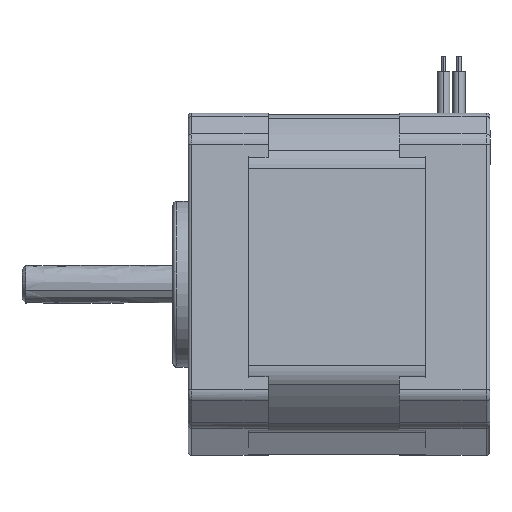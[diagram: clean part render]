
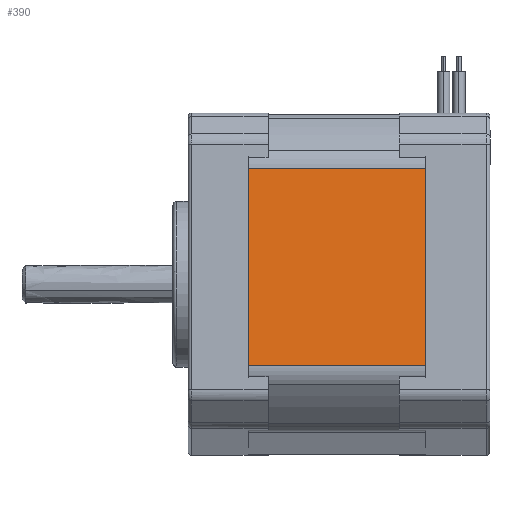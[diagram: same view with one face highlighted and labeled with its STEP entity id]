
A CAD part, top view. The second image highlights one B-rep face of the part: STEP entity #390.
In plain terms, the highlighted planar face has unit normal (0, 0.108, 0.994) as drawn and (-1, 0, 0) by its records, which use the part's own axes.
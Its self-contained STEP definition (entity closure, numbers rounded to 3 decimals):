
#390=ADVANCED_FACE('',(#1236),#12821,.T.);
#1236=FACE_OUTER_BOUND('',#2092,.T.);
#2092=EDGE_LOOP('',(#3096,#3097,#3098,#3099));
#3096=ORIENTED_EDGE('',*,*,#7278,.F.);
#3097=ORIENTED_EDGE('',*,*,#7264,.T.);
#3098=ORIENTED_EDGE('',*,*,#7279,.F.);
#3099=ORIENTED_EDGE('',*,*,#7260,.F.);
#7260=EDGE_CURVE('',#11490,#11491,#9364,.T.);
#7264=EDGE_CURVE('',#11504,#11505,#9368,.T.);
#7278=EDGE_CURVE('',#11504,#11490,#9378,.T.);
#7279=EDGE_CURVE('',#11491,#11505,#9379,.T.);
#9364=B_SPLINE_CURVE_WITH_KNOTS('',1,(#14937,#14938),.UNSPECIFIED.,.F.,
 .F.,(2,2),(0.,26.263),.UNSPECIFIED.);
#9368=B_SPLINE_CURVE_WITH_KNOTS('',1,(#14945,#14946),.UNSPECIFIED.,.F.,
 .F.,(2,2),(-26.263,0.),.UNSPECIFIED.);
#9378=B_SPLINE_CURVE_WITH_KNOTS('',1,(#14977,#14978),.UNSPECIFIED.,.F.,
 .F.,(2,2),(-23.5,0.),.UNSPECIFIED.);
#9379=B_SPLINE_CURVE_WITH_KNOTS('',1,(#14979,#14980),.UNSPECIFIED.,.F.,
 .F.,(2,2),(-23.5,0.),.UNSPECIFIED.);
#11490=VERTEX_POINT('',#14837);
#11491=VERTEX_POINT('',#14838);
#11504=VERTEX_POINT('',#14851);
#11505=VERTEX_POINT('',#14852);
#12821=PLANE('',#13560);
#13560=AXIS2_PLACEMENT_3D('',#14542,#13988,$);
#13988=DIRECTION('',(-1.,0.,0.));
#14542=CARTESIAN_POINT('',(-21.15,6.15,15.758));
#14837=CARTESIAN_POINT('',(-21.15,32.,-13.132));
#14838=CARTESIAN_POINT('',(-21.15,32.,13.132));
#14851=CARTESIAN_POINT('',(-21.15,8.5,-13.132));
#14852=CARTESIAN_POINT('',(-21.15,8.5,13.132));
#14937=CARTESIAN_POINT('',(-21.15,32.,-13.132));
#14938=CARTESIAN_POINT('',(-21.15,32.,13.132));
#14945=CARTESIAN_POINT('',(-21.15,8.5,-13.132));
#14946=CARTESIAN_POINT('',(-21.15,8.5,13.132));
#14977=CARTESIAN_POINT('',(-21.15,8.5,-13.132));
#14978=CARTESIAN_POINT('',(-21.15,32.,-13.132));
#14979=CARTESIAN_POINT('',(-21.15,32.,13.132));
#14980=CARTESIAN_POINT('',(-21.15,8.5,13.132));
